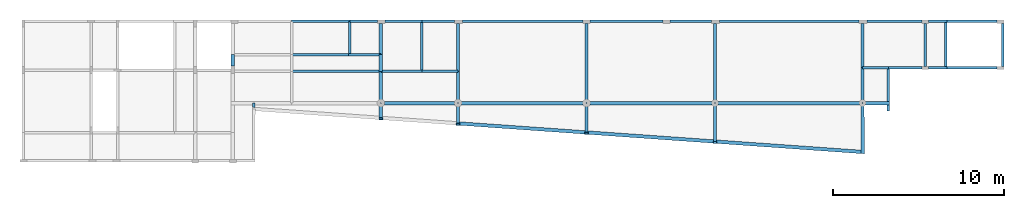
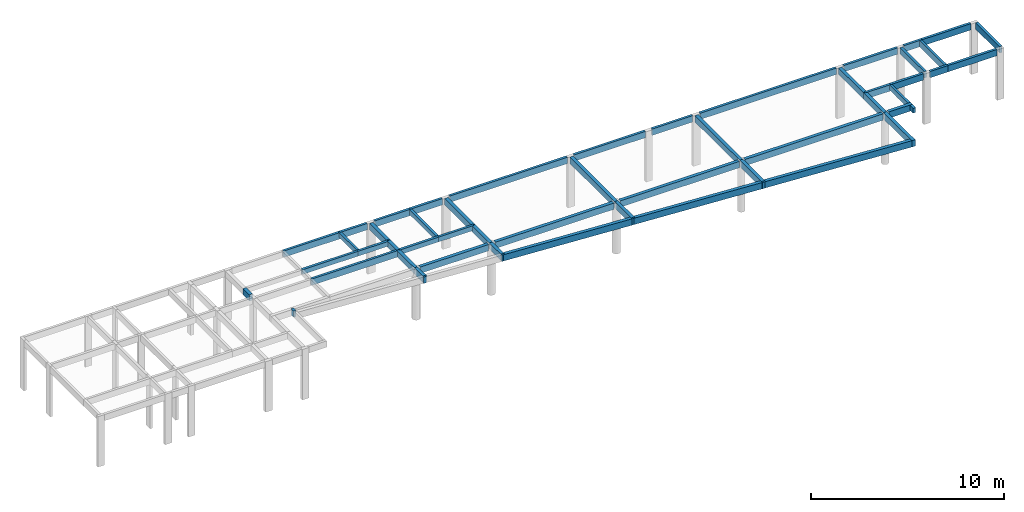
# One storey, part 2 of 3: 55 beams.
"""IFC2X3 building model written with IfcOpenShell, lengths in centimetres."""

from ifc_helpers import new_model, si_unit, derived_unit, frame, origin, origin_with_axes, origin_2d_with_axis, place, context, project, spatial, rectangle, extrude, clip, halfspace, material, element, save


model = new_model("IFC2X3")

# Units and contexts
model_context = context("Model", 3, precision=1e-05, world=origin_with_axes(), identifier="Body")
ifc_project = project(units=[si_unit("LENGTHUNIT", "METRE", prefix="CENTI"), si_unit("VOLUMEUNIT", "CUBIC_METRE"), si_unit("AREAUNIT", "SQUARE_METRE"), si_unit("POWERUNIT", "WATT"), si_unit("LUMINOUSFLUXUNIT", "LUMEN"), si_unit("ELECTRICCURRENTUNIT", "AMPERE"), si_unit("PRESSUREUNIT", "PASCAL", prefix="KILO"), si_unit("MASSUNIT", "GRAM", prefix="KILO"), si_unit("PLANEANGLEUNIT", "RADIAN"), derived_unit("VOLUMETRICFLOWRATEUNIT", [(si_unit("LENGTHUNIT", "METRE"), 3), (si_unit("TIMEUNIT", "SECOND"), -1)])], contexts=[model_context])

# Site, building, storey
site_placement = place(None, origin_with_axes())
site = spatial("IfcSite", under=ifc_project, at=site_placement)
building_placement = place(site_placement, origin())
building = spatial("IfcBuilding", under=site, at=building_placement)
placement_1 = place(building_placement, origin_with_axes())
placement_2 = place(placement_1, frame((0.0, 0.0, 80.0), z_axis=(0.0, 0.0, 1.0), x_axis=(1.0, 0.0, 0.0)))
placement_3 = place(placement_2, frame((0.0, 0.0, 320.0), z_axis=(0.0, 0.0, 1.0), x_axis=(1.0, 0.0, 0.0)))
storey_placement = place(placement_3, frame((0.0, 0.0, 320.0), z_axis=(0.0, 0.0, 1.0), x_axis=(1.0, 0.0, 0.0)))
storey = spatial("IfcBuildingStorey", under=building, at=storey_placement, Name="04. Cobertura", CompositionType="ELEMENT", Elevation=720.0)

# Beams
ifc_material = material(Name="Concreto")
beam_1_placement = place(storey_placement, frame((287.04, -281.61, 0.0), z_axis=(0.0, 0.0, 1.0), x_axis=(1.0, 0.0, 0.0)))
element("IfcBeam", 1, at=beam_1_placement, inside=storey, material=ifc_material, Name="V1", context=model_context, shape_type="SolidModel", body=[
    extrude(rectangle(XDim=15.0, YDim=40.0, at=origin_2d_with_axis()), frame((-170.0, 0.0, -20.0), z_axis=(1.0, 0.0, 0.0), x_axis=(0.0, -1.0, 0.0)), (0.0, 0.0, 1.0), 340.0),
])
beam_2_placement = place(storey_placement, frame((537.79, -281.61, 0.0), z_axis=(0.0, 0.0, 1.0), x_axis=(1.0, 0.0, 0.0)))
element("IfcBeam", 2, at=beam_2_placement, inside=storey, material=ifc_material, Name="V1", context=model_context, shape_type="SolidModel", body=[
    extrude(rectangle(XDim=15.0, YDim=40.0, at=origin_2d_with_axis()), frame((-80.75, 0.0, -20.0), z_axis=(1.0, 0.0, 0.0), x_axis=(0.0, -1.0, 0.0)), (0.0, 0.0, 1.0), 161.5),
])
beam_3_placement = place(storey_placement, frame((3014.180064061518, -1013.7376565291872, 0.0), z_axis=(0.0, 0.0, 1.0), x_axis=(1.0, 0.0, 0.0)))
element("IfcBeam", 3, at=beam_3_placement, inside=storey, material=ifc_material, Name="V11", context=model_context, shape_type="Clipping", body=[
    clip(extrude(rectangle(XDim=20.0, YDim=40.0, at=origin_2d_with_axis()), frame((-425.5100640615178, 30.097656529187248, -20.0), z_axis=(0.997515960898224, -0.070440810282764, 0.0), x_axis=(0.070440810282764, 0.997515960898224, 0.0)), (0.0, 0.0, 1.0), 854.5516841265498), halfspace(frame((426.16160628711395, -20.01927845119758, -40.0), z_axis=(-1.0, -0.002636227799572, 0.0), x_axis=(0.0, 0.0, 0.073070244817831)), True)),
])
beam_4_placement = place(storey_placement, frame((2213.67, -957.155, 0.0), z_axis=(0.0, 0.0, 1.0), x_axis=(1.0, 0.0, 0.0)))
element("IfcBeam", 4, at=beam_4_placement, inside=storey, material=ifc_material, Name="V11", context=model_context, shape_type="SolidModel", body=[
    extrude(rectangle(XDim=20.0, YDim=40.0, at=origin_2d_with_axis()), frame((-375.0, 26.485, -20.0), z_axis=(0.997515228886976, -0.070451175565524, 0.0), x_axis=(0.070451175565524, 0.997515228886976, 0.0)), (0.0, 0.0, 1.0), 751.8682204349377),
])
beam_5_placement = place(storey_placement, frame((1463.67, -904.185, 0.0), z_axis=(0.0, 0.0, 1.0), x_axis=(1.0, 0.0, 0.0)))
element("IfcBeam", 5, at=beam_5_placement, inside=storey, material=ifc_material, Name="V11", context=model_context, shape_type="SolidModel", body=[
    extrude(rectangle(XDim=20.0, YDim=40.0, at=origin_2d_with_axis()), frame((-375.0, 26.485, -20.0), z_axis=(0.997515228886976, -0.070451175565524, 0.0), x_axis=(-0.070451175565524, -0.997515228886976, 0.0)), (0.0, 0.0, 1.0), 751.8682204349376),
])
beam_6_placement = place(storey_placement, frame((863.67, -758.96, 0.0), z_axis=(0.0, 0.0, 1.0), x_axis=(1.0, 0.0, 0.0)))
element("IfcBeam", 6, at=beam_6_placement, inside=storey, material=ifc_material, Name="V12", context=model_context, shape_type="SolidModel", body=[
    extrude(rectangle(XDim=20.0, YDim=40.0, at=origin_2d_with_axis()), frame((-204.8443556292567, 0.0, -20.0), z_axis=(1.0, 0.0, 0.0), x_axis=(0.0, -1.0, 0.0)), (0.0, 0.0, 1.0), 409.6887112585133),
])
beam_7_placement = place(storey_placement, frame((1463.67, -758.96, 0.0), z_axis=(0.0, 0.0, 1.0), x_axis=(1.0, 0.0, 0.0)))
element("IfcBeam", 7, at=beam_7_placement, inside=storey, material=ifc_material, Name="V13", context=model_context, shape_type="SolidModel", body=[
    extrude(rectangle(XDim=20.0, YDim=40.0, at=origin_2d_with_axis()), frame((-354.84435562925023, 0.0, -20.0), z_axis=(1.0, 0.0, 0.0), x_axis=(0.0, -1.0, 0.0)), (0.0, 0.0, 1.0), 709.6887112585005),
])
beam_8_placement = place(storey_placement, frame((2215.08756814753, -758.96, 0.0), z_axis=(0.0, 0.0, 1.0), x_axis=(1.0, 0.0, 0.0)))
element("IfcBeam", 8, at=beam_8_placement, inside=storey, material=ifc_material, Name="V14", context=model_context, shape_type="SolidModel", body=[
    extrude(rectangle(XDim=20.0, YDim=40.0, at=origin_2d_with_axis()), frame((-356.2619237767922, 0.0, -20.0), z_axis=(1.0, 0.0, 0.0), x_axis=(0.0, 1.0, 0.0)), (0.0, 0.0, 1.0), 712.5238475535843),
])
beam_9_placement = place(storey_placement, frame((3019.17, -758.96, 0.0), z_axis=(0.0, 0.0, 1.0), x_axis=(1.0, 0.0, 0.0)))
element("IfcBeam", 9, at=beam_9_placement, inside=storey, material=ifc_material, Name="V15", context=model_context, shape_type="SolidModel", body=[
    extrude(rectangle(XDim=20.0, YDim=40.0, at=origin_2d_with_axis()), frame((-413.17949192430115, 0.0, -20.0), z_axis=(1.0, 0.0, 0.0), x_axis=(0.0, 1.0, 0.0)), (0.0, 0.0, 1.0), 826.3589838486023),
])
beam_10_placement = place(storey_placement, frame((3537.265254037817, -758.96, 0.0), z_axis=(0.0, 0.0, 1.0), x_axis=(1.0, 0.0, 0.0)))
element("IfcBeam", 10, at=beam_10_placement, inside=storey, material=ifc_material, Name="V16", context=model_context, shape_type="SolidModel", body=[
    extrude(rectangle(XDim=20.0, YDim=40.0, at=origin_2d_with_axis()), frame((-70.2747459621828, 0.0, -20.0), z_axis=(1.0, 0.0, 0.0), x_axis=(0.0, 1.0, 0.0)), (0.0, 0.0, 1.0), 140.5494919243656),
])
beam_11_placement = place(storey_placement, frame((770.29, -281.61, 0.0), z_axis=(0.0, 0.0, 1.0), x_axis=(1.0, 0.0, 0.0)))
element("IfcBeam", 11, at=beam_11_placement, inside=storey, material=ifc_material, Name="V2", context=model_context, shape_type="SolidModel", body=[
    extrude(rectangle(XDim=15.0, YDim=40.0, at=origin_2d_with_axis()), frame((-106.75, 0.0, -20.0), z_axis=(1.0, 0.0, 0.0), x_axis=(0.0, 1.0, 0.0)), (0.0, 0.0, 1.0), 213.5),
])
beam_12_placement = place(storey_placement, frame((972.79, -281.61, 0.0), z_axis=(0.0, 0.0, 1.0), x_axis=(1.0, 0.0, 0.0)))
element("IfcBeam", 12, at=beam_12_placement, inside=storey, material=ifc_material, Name="V2", context=model_context, shape_type="SolidModel", body=[
    extrude(rectangle(XDim=15.0, YDim=40.0, at=origin_2d_with_axis()), frame((-95.75, 0.0, -20.0), z_axis=(1.0, 0.0, 0.0), x_axis=(0.0, 1.0, 0.0)), (0.0, 0.0, 1.0), 191.5),
])
beam_13_placement = place(storey_placement, frame((2447.04, -281.61, 0.0), z_axis=(0.0, 0.0, 1.0), x_axis=(1.0, 0.0, 0.0)))
element("IfcBeam", 13, at=beam_13_placement, inside=storey, material=ifc_material, Name="V2", context=model_context, shape_type="SolidModel", body=[
    extrude(rectangle(XDim=15.0, YDim=40.0, at=origin_2d_with_axis()), frame((-121.5, 0.0, -20.0), z_axis=(1.0, 0.0, 0.0), x_axis=(0.0, 1.0, 0.0)), (0.0, 0.0, 1.0), 243.0),
])
beam_14_placement = place(storey_placement, frame((3021.54, -281.61, 0.0), z_axis=(0.0, 0.0, 1.0), x_axis=(1.0, 0.0, 0.0)))
element("IfcBeam", 14, at=beam_14_placement, inside=storey, material=ifc_material, Name="V2", context=model_context, shape_type="SolidModel", body=[
    extrude(rectangle(XDim=15.0, YDim=40.0, at=origin_2d_with_axis()), frame((-408.0, 0.0, -20.0), z_axis=(1.0, 0.0, 0.0), x_axis=(0.0, 1.0, 0.0)), (0.0, 0.0, 1.0), 816.0),
])
beam_15_placement = place(storey_placement, frame((1466.04, -281.61, 0.0), z_axis=(0.0, 0.0, 1.0), x_axis=(1.0, 0.0, 0.0)))
element("IfcBeam", 15, at=beam_15_placement, inside=storey, material=ifc_material, Name="V2", context=model_context, shape_type="SolidModel", body=[
    extrude(rectangle(XDim=15.0, YDim=40.0, at=origin_2d_with_axis()), frame((-352.5, 0.0, -20.0), z_axis=(1.0, 0.0, 0.0), x_axis=(0.0, 1.0, 0.0)), (0.0, 0.0, 1.0), 705.0),
])
beam_16_placement = place(storey_placement, frame((2072.04, -281.61, 0.0), z_axis=(0.0, 0.0, 1.0), x_axis=(1.0, 0.0, 0.0)))
element("IfcBeam", 16, at=beam_16_placement, inside=storey, material=ifc_material, Name="V2", context=model_context, shape_type="SolidModel", body=[
    extrude(rectangle(XDim=15.0, YDim=40.0, at=origin_2d_with_axis()), frame((-213.5, 0.0, -20.0), z_axis=(1.0, 0.0, 0.0), x_axis=(0.0, 1.0, 0.0)), (0.0, 0.0, 1.0), 427.0),
])
beam_17_placement = place(storey_placement, frame((-225.46, -509.11, 0.0), z_axis=(0.0, 0.0, 1.0), x_axis=(1.0, 0.0, 0.0)))
element("IfcBeam", 17, at=beam_17_placement, inside=storey, material=ifc_material, Name="V26", context=model_context, shape_type="SolidModel", body=[
    extrude(rectangle(XDim=20.0, YDim=40.0, at=origin_2d_with_axis()), frame((0.0, -32.5, -20.0), z_axis=(0.0, 1.0, 0.0), x_axis=(1.0, 0.0, 0.0)), (0.0, 0.0, 1.0), 65.0),
])
beam_18_placement = place(storey_placement, frame((-102.70454474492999, -771.4498578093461, 0.0), z_axis=(0.0, 0.0, 1.0), x_axis=(1.0, 0.0, 0.0)))
element("IfcBeam", 18, at=beam_18_placement, inside=storey, material=ifc_material, Name="V27", context=model_context, shape_type="Clipping", body=[
    clip(extrude(rectangle(XDim=15.0, YDim=40.0, at=origin_2d_with_axis()), frame((0.255455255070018, -12.792913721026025, -20.0), z_axis=(-0.020203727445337, 0.999795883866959, 0.0), x_axis=(0.999795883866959, 0.020203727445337, 0.0)), (0.0, 0.0, 1.0), 25.287933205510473), halfspace(frame((-7.270577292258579, -11.580446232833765, 0.0), z_axis=(0.070438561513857, 0.997516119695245, 0.0), x_axis=(0.0, 0.0, 0.090577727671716)), True)),
])
beam_19_placement = place(storey_placement, frame((457.04, -375.36, 0.0), z_axis=(0.0, 0.0, 1.0), x_axis=(1.0, 0.0, 0.0)))
element("IfcBeam", 19, at=beam_19_placement, inside=storey, material=ifc_material, Name="V29", context=model_context, shape_type="SolidModel", body=[
    extrude(rectangle(XDim=15.0, YDim=30.0, at=origin_2d_with_axis()), frame((0.0, -93.75, -15.0), z_axis=(0.0, 1.0, 0.0), x_axis=(1.0, 0.0, 0.0)), (0.0, 0.0, 1.0), 187.5),
])
beam_20_placement = place(storey_placement, frame((4085.79, -281.61, 0.0), z_axis=(0.0, 0.0, 1.0), x_axis=(1.0, 0.0, 0.0)))
element("IfcBeam", 20, at=beam_20_placement, inside=storey, material=ifc_material, Name="V3", context=model_context, shape_type="SolidModel", body=[
    extrude(rectangle(XDim=15.0, YDim=40.0, at=origin_2d_with_axis()), frame((-149.75, 0.0, -20.0), z_axis=(1.0, 0.0, 0.0), x_axis=(0.0, 1.0, 0.0)), (0.0, 0.0, 1.0), 299.5),
])
beam_21_placement = place(storey_placement, frame((3635.29, -281.61, 0.0), z_axis=(0.0, 0.0, 1.0), x_axis=(1.0, 0.0, 0.0)))
element("IfcBeam", 21, at=beam_21_placement, inside=storey, material=ifc_material, Name="V3", context=model_context, shape_type="SolidModel", body=[
    extrude(rectangle(XDim=15.0, YDim=40.0, at=origin_2d_with_axis()), frame((-160.75, 0.0, -20.0), z_axis=(1.0, 0.0, 0.0), x_axis=(0.0, 1.0, 0.0)), (0.0, 0.0, 1.0), 321.5),
])
beam_22_placement = place(storey_placement, frame((3889.79, -281.61, 0.0), z_axis=(0.0, 0.0, 1.0), x_axis=(1.0, 0.0, 0.0)))
element("IfcBeam", 22, at=beam_22_placement, inside=storey, material=ifc_material, Name="V3", context=model_context, shape_type="SolidModel", body=[
    extrude(rectangle(XDim=15.0, YDim=40.0, at=origin_2d_with_axis()), frame((-53.75, 0.0, -20.0), z_axis=(1.0, 0.0, 0.0), x_axis=(0.0, 1.0, 0.0)), (0.0, 0.0, 1.0), 107.5),
])
beam_23_placement = place(storey_placement, frame((638.67, -850.94, 0.0), z_axis=(0.0, 0.0, 1.0), x_axis=(1.0, 0.0, 0.0)))
element("IfcBeam", 23, at=beam_23_placement, inside=storey, material=ifc_material, Name="V30", context=model_context, shape_type="SolidModel", body=[
    extrude(rectangle(XDim=20.0, YDim=40.0, at=origin_2d_with_axis()), frame((0.0, -5.02, -20.0), z_axis=(0.0, 1.0, 0.0), x_axis=(1.0, 0.0, 0.0)), (0.0, 0.0, 1.0), 10.04),
])
beam_24_placement = place(storey_placement, frame((638.67, -802.44, 0.0), z_axis=(0.0, 0.0, 1.0), x_axis=(1.0, 0.0, 0.0)))
element("IfcBeam", 24, at=beam_24_placement, inside=storey, material=ifc_material, Name="V30", context=model_context, shape_type="SolidModel", body=[
    extrude(rectangle(XDim=20.0, YDim=40.0, at=origin_2d_with_axis()), frame((0.0, -43.48, -20.0), z_axis=(0.0, 1.0, 0.0), x_axis=(1.0, 0.0, 0.0)), (0.0, 0.0, 1.0), 86.96),
])
beam_25_placement = place(storey_placement, frame((638.67, -666.535, 0.0), z_axis=(0.0, 0.0, 1.0), x_axis=(1.0, 0.0, 0.0)))
element("IfcBeam", 25, at=beam_25_placement, inside=storey, material=ifc_material, Name="V30", context=model_context, shape_type="SolidModel", body=[
    extrude(rectangle(XDim=20.0, YDim=40.0, at=origin_2d_with_axis()), frame((0.0, -92.425, -20.0), z_axis=(0.0, 1.0, 0.0), x_axis=(1.0, 0.0, 0.0)), (0.0, 0.0, 1.0), 184.85),
])
beam_26_placement = place(storey_placement, frame((638.67, -525.36, 0.0), z_axis=(0.0, 0.0, 1.0), x_axis=(1.0, 0.0, 0.0)))
element("IfcBeam", 26, at=beam_26_placement, inside=storey, material=ifc_material, Name="V30", context=model_context, shape_type="SolidModel", body=[
    extrude(rectangle(XDim=20.0, YDim=40.0, at=origin_2d_with_axis()), frame((0.0, -48.75, -20.0), z_axis=(0.0, 1.0, 0.0), x_axis=(1.0, 0.0, 0.0)), (0.0, 0.0, 1.0), 97.5),
])
beam_27_placement = place(storey_placement, frame((638.67, -385.36, 0.0), z_axis=(0.0, 0.0, 1.0), x_axis=(1.0, 0.0, 0.0)))
element("IfcBeam", 27, at=beam_27_placement, inside=storey, material=ifc_material, Name="V30", context=model_context, shape_type="SolidModel", body=[
    extrude(rectangle(XDim=20.0, YDim=40.0, at=origin_2d_with_axis()), frame((0.0, -91.25, -20.0), z_axis=(0.0, 1.0, 0.0), x_axis=(1.0, 0.0, 0.0)), (0.0, 0.0, 1.0), 182.5),
])
beam_28_placement = place(storey_placement, frame((877.04, -427.86, 0.0), z_axis=(0.0, 0.0, 1.0), x_axis=(1.0, 0.0, 0.0)))
element("IfcBeam", 28, at=beam_28_placement, inside=storey, material=ifc_material, Name="V31", context=model_context, shape_type="SolidModel", body=[
    extrude(rectangle(XDim=15.0, YDim=30.0, at=origin_2d_with_axis()), frame((0.0, -146.25, -15.0), z_axis=(0.0, 1.0, 0.0), x_axis=(1.0, 0.0, 0.0)), (0.0, 0.0, 1.0), 292.5),
])
beam_29_placement = place(storey_placement, frame((1088.67, -818.33, 0.0), z_axis=(0.0, 0.0, 1.0), x_axis=(1.0, 0.0, 0.0)))
element("IfcBeam", 29, at=beam_29_placement, inside=storey, material=ifc_material, Name="V32", context=model_context, shape_type="SolidModel", body=[
    extrude(rectangle(XDim=20.0, YDim=40.0, at=origin_2d_with_axis()), frame((0.0, -59.37, -20.0), z_axis=(0.0, 1.0, 0.0), x_axis=(1.0, 0.0, 0.0)), (0.0, 0.0, 1.0), 118.74),
])
beam_30_placement = place(storey_placement, frame((1088.67, -666.535, 0.0), z_axis=(0.0, 0.0, 1.0), x_axis=(1.0, 0.0, 0.0)))
element("IfcBeam", 30, at=beam_30_placement, inside=storey, material=ifc_material, Name="V32", context=model_context, shape_type="SolidModel", body=[
    extrude(rectangle(XDim=20.0, YDim=40.0, at=origin_2d_with_axis()), frame((0.0, -92.425, -20.0), z_axis=(0.0, 1.0, 0.0), x_axis=(1.0, 0.0, 0.0)), (0.0, 0.0, 1.0), 184.85),
])
beam_31_placement = place(storey_placement, frame((1088.67, -434.11, 0.0), z_axis=(0.0, 0.0, 1.0), x_axis=(1.0, 0.0, 0.0)))
element("IfcBeam", 31, at=beam_31_placement, inside=storey, material=ifc_material, Name="V32", context=model_context, shape_type="SolidModel", body=[
    extrude(rectangle(XDim=20.0, YDim=40.0, at=origin_2d_with_axis()), frame((0.0, -140.0, -20.0), z_axis=(0.0, 1.0, 0.0), x_axis=(1.0, 0.0, 0.0)), (0.0, 0.0, 1.0), 280.0),
])
beam_32_placement = place(storey_placement, frame((1088.67, -882.72, 0.0), z_axis=(0.0, 0.0, 1.0), x_axis=(1.0, 0.0, 0.0)))
element("IfcBeam", 32, at=beam_32_placement, inside=storey, material=ifc_material, Name="V32", context=model_context, shape_type="SolidModel", body=[
    extrude(rectangle(XDim=20.0, YDim=40.0, at=origin_2d_with_axis()), frame((0.0, -5.02, -20.0), z_axis=(0.0, 1.0, 0.0), x_axis=(1.0, 0.0, 0.0)), (0.0, 0.0, 1.0), 10.04),
])
beam_33_placement = place(storey_placement, frame((1838.67, -526.535, 0.0), z_axis=(0.0, 0.0, 1.0), x_axis=(1.0, 0.0, 0.0)))
element("IfcBeam", 33, at=beam_33_placement, inside=storey, material=ifc_material, Name="V33", context=model_context, shape_type="SolidModel", body=[
    extrude(rectangle(XDim=20.0, YDim=40.0, at=origin_2d_with_axis()), frame((0.0, -232.425, -20.0), z_axis=(0.0, 1.0, 0.0), x_axis=(1.0, 0.0, 0.0)), (0.0, 0.0, 1.0), 464.85),
])
beam_34_placement = place(storey_placement, frame((1838.67, -935.685, 0.0), z_axis=(0.0, 0.0, 1.0), x_axis=(1.0, 0.0, 0.0)))
element("IfcBeam", 34, at=beam_34_placement, inside=storey, material=ifc_material, Name="V33", context=model_context, shape_type="SolidModel", body=[
    extrude(rectangle(XDim=20.0, YDim=40.0, at=origin_2d_with_axis()), frame((0.0, -5.015, -20.0), z_axis=(0.0, 1.0, 0.0), x_axis=(1.0, 0.0, 0.0)), (0.0, 0.0, 1.0), 10.03),
])
beam_35_placement = place(storey_placement, frame((1838.67, -844.815, 0.0), z_axis=(0.0, 0.0, 1.0), x_axis=(1.0, 0.0, 0.0)))
element("IfcBeam", 35, at=beam_35_placement, inside=storey, material=ifc_material, Name="V33", context=model_context, shape_type="SolidModel", body=[
    extrude(rectangle(XDim=20.0, YDim=40.0, at=origin_2d_with_axis()), frame((0.0, -85.855, -20.0), z_axis=(0.0, 1.0, 0.0), x_axis=(1.0, 0.0, 0.0)), (0.0, 0.0, 1.0), 171.71),
])
beam_36_placement = place(storey_placement, frame((2588.67, -871.3, 0.0), z_axis=(0.0, 0.0, 1.0), x_axis=(1.0, 0.0, 0.0)))
element("IfcBeam", 36, at=beam_36_placement, inside=storey, material=ifc_material, Name="V34", context=model_context, shape_type="SolidModel", body=[
    extrude(rectangle(XDim=20.0, YDim=40.0, at=origin_2d_with_axis()), frame((0.0, -112.34, -20.0), z_axis=(0.0, 1.0, 0.0), x_axis=(1.0, 0.0, 0.0)), (0.0, 0.0, 1.0), 224.68),
])
beam_37_placement = place(storey_placement, frame((2588.67, -988.805, 0.0), z_axis=(0.0, 0.0, 1.0), x_axis=(1.0, 0.0, 0.0)))
element("IfcBeam", 37, at=beam_37_placement, inside=storey, material=ifc_material, Name="V34", context=model_context, shape_type="SolidModel", body=[
    extrude(rectangle(XDim=20.0, YDim=40.0, at=origin_2d_with_axis()), frame((0.0, -5.165, -20.0), z_axis=(0.0, 1.0, 0.0), x_axis=(1.0, 0.0, 0.0)), (0.0, 0.0, 1.0), 10.33),
])
beam_38_placement = place(storey_placement, frame((2588.67, -526.535, 0.0), z_axis=(0.0, 0.0, 1.0), x_axis=(1.0, 0.0, 0.0)))
element("IfcBeam", 38, at=beam_38_placement, inside=storey, material=ifc_material, Name="V34", context=model_context, shape_type="SolidModel", body=[
    extrude(rectangle(XDim=20.0, YDim=40.0, at=origin_2d_with_axis()), frame((0.0, -232.425, -20.0), z_axis=(0.0, 1.0, 0.0), x_axis=(1.0, 0.0, 0.0)), (0.0, 0.0, 1.0), 464.85),
])
beam_39_placement = place(storey_placement, frame((3449.63320249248, -655.2847824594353, 0.0), z_axis=(0.0, 0.0, 1.0), x_axis=(1.0, 0.0, 0.0)))
element("IfcBeam", 39, at=beam_39_placement, inside=storey, material=ifc_material, Name="V35", context=model_context, shape_type="SolidModel", body=[
    extrude(rectangle(XDim=20.0, YDim=40.0, at=origin_2d_with_axis()), frame((0.033202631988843, -103.67521869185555, -20.0), z_axis=(-0.000320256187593, 1.0, 0.0), x_axis=(1.0, 0.000320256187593, 0.0)), (0.0, 0.0, 1.0), 207.3504480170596),
])
beam_40_placement = place(storey_placement, frame((3449.57, -422.86021811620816, 0.0), z_axis=(0.0, 0.0, 1.0), x_axis=(1.0, 0.0, 0.0)))
element("IfcBeam", 40, at=beam_40_placement, inside=storey, material=ifc_material, Name="V35", context=model_context, shape_type="SolidModel", body=[
    extrude(rectangle(XDim=20.0, YDim=40.0, at=origin_2d_with_axis()), frame((0.03, -128.75021811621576, -20.0), z_axis=(-0.000233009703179, 1.0, 0.0), x_axis=(1.0, 0.000233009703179, 0.0)), (0.0, 0.0, 1.0), 257.5004432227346),
])
beam_41_placement = place(storey_placement, frame((3450.007820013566, -907.0784208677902, 0.0), z_axis=(0.0, 0.0, 1.0), x_axis=(1.0, 0.0, 0.0)))
element("IfcBeam", 41, at=beam_41_placement, inside=storey, material=ifc_material, Name="V35", context=model_context, shape_type="Clipping", body=[
    clip(extrude(rectangle(XDim=20.0, YDim=40.0, at=origin_2d_with_axis()), frame((0.390544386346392, -148.1710064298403, -20.0), z_axis=(-0.002636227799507, 1.0, 0.0), x_axis=(1.0, 0.002636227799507, 0.0)), (0.0, 0.0, 1.0), 296.2903178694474), halfspace(frame((-9.613283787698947, -146.73205179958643, 0.0), z_axis=(0.07044081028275, 0.997515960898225, 0.0), x_axis=(0.0, 0.0, 0.073070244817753)), True)),
])
beam_42_placement = place(storey_placement, frame((3600.04, -786.535, 0.0), z_axis=(0.0, 0.0, 1.0), x_axis=(1.0, 0.0, 0.0)))
element("IfcBeam", 42, at=beam_42_placement, inside=storey, material=ifc_material, Name="V36", context=model_context, shape_type="SolidModel", body=[
    extrude(rectangle(XDim=15.0, YDim=30.0, at=origin_2d_with_axis()), frame((0.0, -17.575, -15.0), z_axis=(0.0, 1.0, 0.0), x_axis=(1.0, 0.0, 0.0)), (0.0, 0.0, 1.0), 35.15),
])
beam_43_placement = place(storey_placement, frame((3600.04, -655.285, 0.0), z_axis=(0.0, 0.0, 1.0), x_axis=(1.0, 0.0, 0.0)))
element("IfcBeam", 43, at=beam_43_placement, inside=storey, material=ifc_material, Name="V36", context=model_context, shape_type="SolidModel", body=[
    extrude(rectangle(XDim=15.0, YDim=30.0, at=origin_2d_with_axis()), frame((0.0, -103.675, -15.0), z_axis=(0.0, 1.0, 0.0), x_axis=(1.0, 0.0, 0.0)), (0.0, 0.0, 1.0), 207.35),
])
beam_44_placement = place(storey_placement, frame((3816.04, -419.11, 0.0), z_axis=(0.0, 0.0, 1.0), x_axis=(1.0, 0.0, 0.0)))
element("IfcBeam", 44, at=beam_44_placement, inside=storey, material=ifc_material, Name="V37", context=model_context, shape_type="SolidModel", body=[
    extrude(rectangle(XDim=15.0, YDim=40.0, at=origin_2d_with_axis()), frame((0.0, -125.0, -20.0), z_axis=(0.0, 1.0, 0.0), x_axis=(1.0, 0.0, 0.0)), (0.0, 0.0, 1.0), 250.0),
])
beam_45_placement = place(storey_placement, frame((3936.04, -416.61, 0.0), z_axis=(0.0, 0.0, 1.0), x_axis=(1.0, 0.0, 0.0)))
element("IfcBeam", 45, at=beam_45_placement, inside=storey, material=ifc_material, Name="V38", context=model_context, shape_type="SolidModel", body=[
    extrude(rectangle(XDim=15.0, YDim=40.0, at=origin_2d_with_axis()), frame((0.0, -127.5, -20.0), z_axis=(0.0, 1.0, 0.0), x_axis=(1.0, 0.0, 0.0)), (0.0, 0.0, 1.0), 255.0),
])
beam_46_placement = place(storey_placement, frame((4268.04, -419.11, 0.0), z_axis=(0.0, 0.0, 1.0), x_axis=(1.0, 0.0, 0.0)))
element("IfcBeam", 46, at=beam_46_placement, inside=storey, material=ifc_material, Name="V39", context=model_context, shape_type="SolidModel", body=[
    extrude(rectangle(XDim=15.0, YDim=40.0, at=origin_2d_with_axis()), frame((0.0, -125.0, -20.0), z_axis=(0.0, 1.0, 0.0), x_axis=(1.0, 0.0, 0.0)), (0.0, 0.0, 1.0), 250.0),
])
beam_47_placement = place(storey_placement, frame((287.04, -476.61, 0.0), z_axis=(0.0, 0.0, 1.0), x_axis=(1.0, 0.0, 0.0)))
element("IfcBeam", 47, at=beam_47_placement, inside=storey, material=ifc_material, Name="V4", context=model_context, shape_type="SolidModel", body=[
    extrude(rectangle(XDim=15.0, YDim=30.0, at=origin_2d_with_axis()), frame((-170.0, 0.0, -15.0), z_axis=(1.0, 0.0, 0.0), x_axis=(0.0, -1.0, 0.0)), (0.0, 0.0, 1.0), 340.0),
])
beam_48_placement = place(storey_placement, frame((544.105, -476.61, 0.0), z_axis=(0.0, 0.0, 1.0), x_axis=(1.0, 0.0, 0.0)))
element("IfcBeam", 48, at=beam_48_placement, inside=storey, material=ifc_material, Name="V4", context=model_context, shape_type="SolidModel", body=[
    extrude(rectangle(XDim=15.0, YDim=30.0, at=origin_2d_with_axis()), frame((-94.565, 0.0, -15.0), z_axis=(1.0, 0.0, 0.0), x_axis=(0.0, -1.0, 0.0)), (0.0, 0.0, 1.0), 189.13),
])
beam_49_placement = place(storey_placement, frame((377.855, -574.11, 0.0), z_axis=(0.0, 0.0, 1.0), x_axis=(1.0, 0.0, 0.0)))
element("IfcBeam", 49, at=beam_49_placement, inside=storey, material=ifc_material, Name="V6", context=model_context, shape_type="SolidModel", body=[
    extrude(rectangle(XDim=15.0, YDim=40.0, at=origin_2d_with_axis()), frame((-260.815, 0.0, -20.0), z_axis=(1.0, 0.0, 0.0), x_axis=(0.0, -1.0, 0.0)), (0.0, 0.0, 1.0), 521.63),
])
beam_50_placement = place(storey_placement, frame((757.855, -574.11, 0.0), z_axis=(0.0, 0.0, 1.0), x_axis=(1.0, 0.0, 0.0)))
element("IfcBeam", 50, at=beam_50_placement, inside=storey, material=ifc_material, Name="V7", context=model_context, shape_type="SolidModel", body=[
    extrude(rectangle(XDim=15.0, YDim=30.0, at=origin_2d_with_axis()), frame((-119.185, 0.0, -15.0), z_axis=(1.0, 0.0, 0.0), x_axis=(0.0, -1.0, 0.0)), (0.0, 0.0, 1.0), 238.37),
])
beam_51_placement = place(storey_placement, frame((982.855, -574.11, 0.0), z_axis=(0.0, 0.0, 1.0), x_axis=(1.0, 0.0, 0.0)))
element("IfcBeam", 51, at=beam_51_placement, inside=storey, material=ifc_material, Name="V7", context=model_context, shape_type="SolidModel", body=[
    extrude(rectangle(XDim=15.0, YDim=30.0, at=origin_2d_with_axis()), frame((-105.815, 0.0, -15.0), z_axis=(1.0, 0.0, 0.0), x_axis=(0.0, -1.0, 0.0)), (0.0, 0.0, 1.0), 211.63),
])
beam_52_placement = place(storey_placement, frame((3698.04, -551.61, 0.0), z_axis=(0.0, 0.0, 1.0), x_axis=(1.0, 0.0, 0.0)))
element("IfcBeam", 52, at=beam_52_placement, inside=storey, material=ifc_material, Name="V8", context=model_context, shape_type="SolidModel", body=[
    extrude(rectangle(XDim=15.0, YDim=40.0, at=origin_2d_with_axis()), frame((-98.0, 0.0, -20.0), z_axis=(1.0, 0.0, 0.0), x_axis=(0.0, 1.0, 0.0)), (0.0, 0.0, 1.0), 196.0),
])
beam_53_placement = place(storey_placement, frame((3524.82, -551.61, 0.0), z_axis=(0.0, 0.0, 1.0), x_axis=(1.0, 0.0, 0.0)))
element("IfcBeam", 53, at=beam_53_placement, inside=storey, material=ifc_material, Name="V8", context=model_context, shape_type="SolidModel", body=[
    extrude(rectangle(XDim=15.0, YDim=40.0, at=origin_2d_with_axis()), frame((-75.22, 0.0, -20.0), z_axis=(1.0, 0.0, 0.0), x_axis=(0.0, 1.0, 0.0)), (0.0, 0.0, 1.0), 150.44),
])
beam_54_placement = place(storey_placement, frame((3889.79, -551.61, 0.0), z_axis=(0.0, 0.0, 1.0), x_axis=(1.0, 0.0, 0.0)))
element("IfcBeam", 54, at=beam_54_placement, inside=storey, material=ifc_material, Name="V9", context=model_context, shape_type="SolidModel", body=[
    extrude(rectangle(XDim=15.0, YDim=40.0, at=origin_2d_with_axis()), frame((-53.75, 0.0, -20.0), z_axis=(1.0, 0.0, 0.0), x_axis=(0.0, 1.0, 0.0)), (0.0, 0.0, 1.0), 107.5),
])
beam_55_placement = place(storey_placement, frame((4085.79, -551.61, 0.0), z_axis=(0.0, 0.0, 1.0), x_axis=(1.0, 0.0, 0.0)))
element("IfcBeam", 55, at=beam_55_placement, inside=storey, material=ifc_material, Name="V9", context=model_context, shape_type="SolidModel", body=[
    extrude(rectangle(XDim=15.0, YDim=40.0, at=origin_2d_with_axis()), frame((-149.75, 0.0, -20.0), z_axis=(1.0, 0.0, 0.0), x_axis=(0.0, 1.0, 0.0)), (0.0, 0.0, 1.0), 299.5),
])

save(model, "model.ifc")
